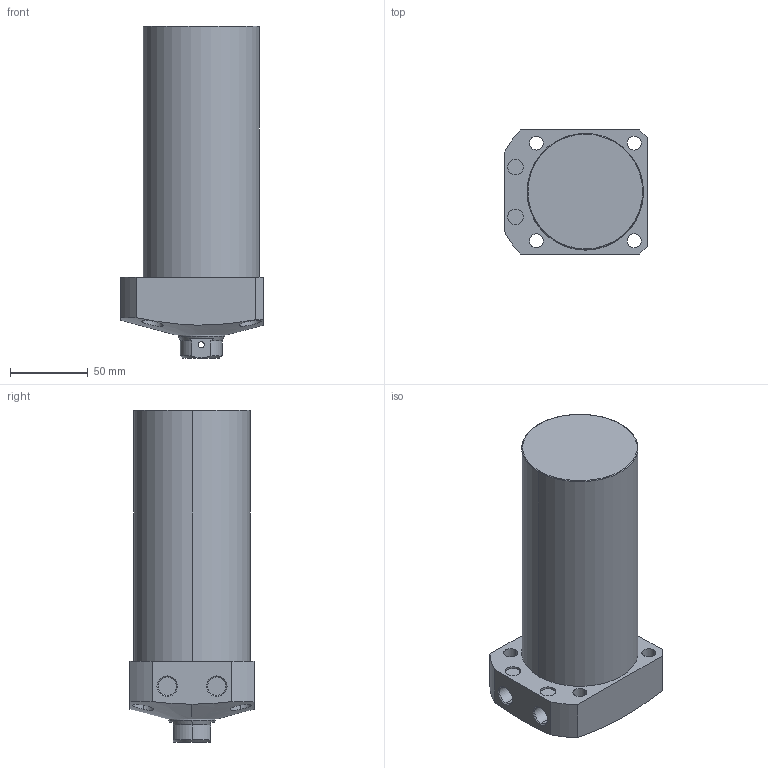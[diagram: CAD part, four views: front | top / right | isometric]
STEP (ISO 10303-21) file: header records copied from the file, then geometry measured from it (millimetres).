
FILE_DESCRIPTION (( 'STEP AP203' ), '1' );
FILE_NAME ('CLL-075CB-125.STEP', '2019-12-24T00:20:43', ( '' ), ( '' ), 'SwSTEP 2.0', 'SolidWorks 2015', '' );
FILE_SCHEMA (( 'CONFIG_CONTROL_DESIGN' ));
Length unit declared in the file: millimetre
Products named in the file (1): CLL-075CB-125
Bounding box: 92 x 80 x 214 mm (x, y, z)
Volume: 934624.6 mm3; surface area: 70583.5 mm2
Topology: 1 solids, 1 shells, 78 faces, 183 edges, 116 vertices
Faces by surface type: cylinder 39, plane 22, cone 15, torus 2
Entity records: 2862 total; most frequent: CARTESIAN_POINT 955, DIRECTION 396, ORIENTED_EDGE 362, EDGE_CURVE 181, AXIS2_PLACEMENT_3D 164, VERTEX_POINT 116, EDGE_LOOP 101, CIRCLE 85
